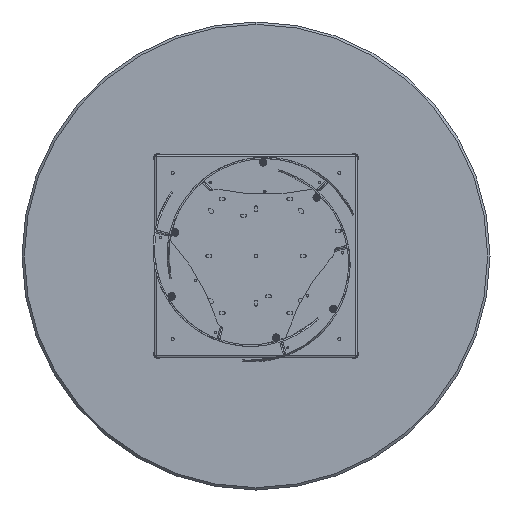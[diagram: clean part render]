
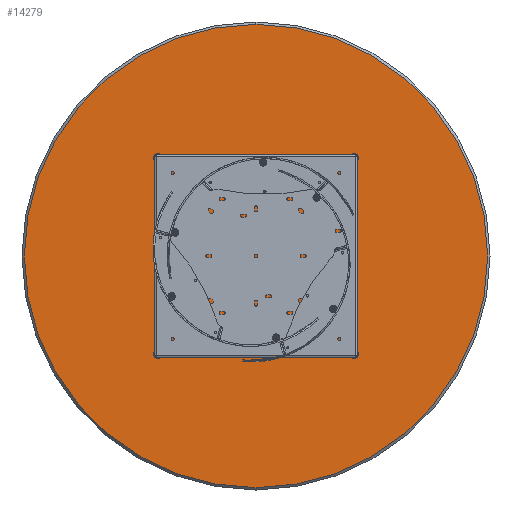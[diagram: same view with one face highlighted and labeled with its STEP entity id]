
A CAD part, front view. The second image highlights one B-rep face of the part: STEP entity #14279.
In plain terms, the highlighted planar face has unit normal (0, -1, 0).
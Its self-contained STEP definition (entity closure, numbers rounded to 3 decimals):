
#1399 = PLANE ( 'NONE',  #8100 ) ;
#1581 = DIRECTION ( 'NONE',  ( 0., -1., 0. ) ) ;
#1666 = VERTEX_POINT ( 'NONE', #12275 ) ;
#2113 = CARTESIAN_POINT ( 'NONE',  ( 0., 0., 0. ) ) ;
#3018 = EDGE_LOOP ( 'NONE', ( #7146, #13284 ) ) ;
#3705 = VERTEX_POINT ( 'NONE', #13821 ) ;
#3969 = DIRECTION ( 'NONE',  ( 0., 0., -1. ) ) ;
#4147 = CARTESIAN_POINT ( 'NONE',  ( 0., 0., 0. ) ) ;
#4365 = CIRCLE ( 'NONE', #16054, 782. ) ;
#6114 = CIRCLE ( 'NONE', #9584, 782. ) ;
#6124 = DIRECTION ( 'NONE',  ( 0., 0., -1. ) ) ;
#7146 = ORIENTED_EDGE ( 'NONE', *, *, #16529, .T. ) ;
#7515 = DIRECTION ( 'NONE',  ( 0., -1., 0. ) ) ;
#8100 = AXIS2_PLACEMENT_3D ( 'NONE', #15332, #7515, #13549 ) ;
#9082 = EDGE_CURVE ( 'NONE', #1666, #3705, #6114, .T. ) ;
#9584 = AXIS2_PLACEMENT_3D ( 'NONE', #4147, #1581, #6124 ) ;
#11488 = DIRECTION ( 'NONE',  ( 0., -1., 0. ) ) ;
#12275 = CARTESIAN_POINT ( 'NONE',  ( 0., 0., -782. ) ) ;
#13284 = ORIENTED_EDGE ( 'NONE', *, *, #9082, .T. ) ;
#13549 = DIRECTION ( 'NONE',  ( 0., 0., -1. ) ) ;
#13744 = FACE_OUTER_BOUND ( 'NONE', #3018, .T. ) ;
#13821 = CARTESIAN_POINT ( 'NONE',  ( 0., 0., 782. ) ) ;
#14279 = ADVANCED_FACE ( 'NONE', ( #13744 ), #1399, .T. ) ;
#15332 = CARTESIAN_POINT ( 'NONE',  ( 0., 0., 0. ) ) ;
#16054 = AXIS2_PLACEMENT_3D ( 'NONE', #2113, #11488, #3969 ) ;
#16529 = EDGE_CURVE ( 'NONE', #3705, #1666, #4365, .T. ) ;
